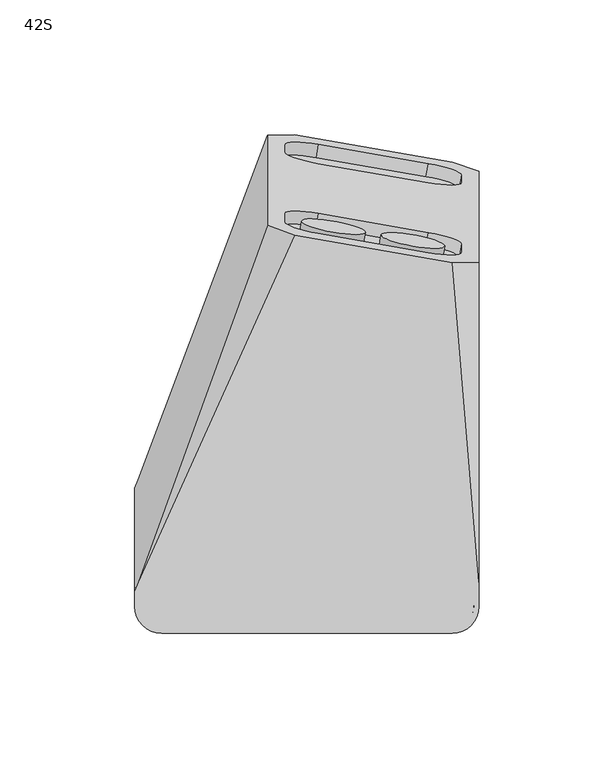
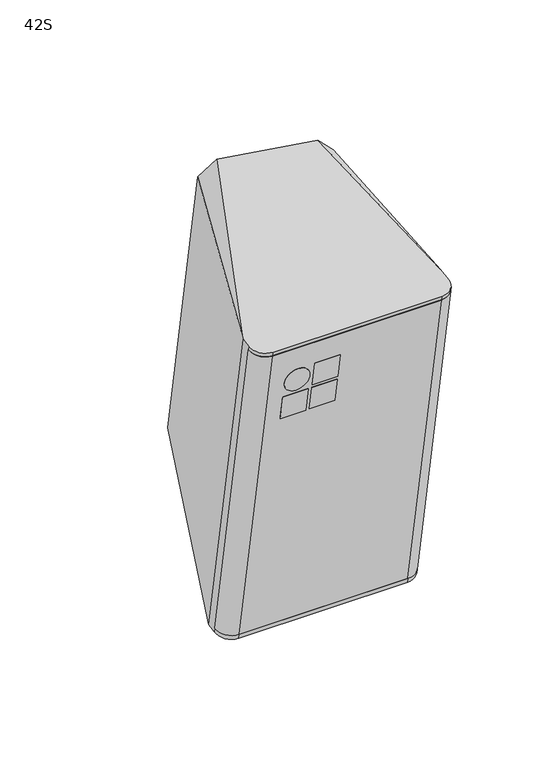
"""IFC4 building model written with IfcOpenShell, lengths in millimetres: proxy geometry, d&b xS-Series 42S Point Source : 42S."""

from ifc_helpers import new_model, si_unit, point, frame, frame_2d, origin, place, context, project, spatial, polyline, circle_curve, ellipse_curve, trimmed, segment, composite_curve, outline, extrude, source, transform, mapped, element, save
from ifc_brep_helpers import plane_surface, cylinder_surface, revolved_surface, advanced_brep


def proxy_42s_a78421c8(model_context):
    return source(origin(), model_context, "Body", "SolidModel", [
        extrude(outline(polyline([(0.0, -16.3333333), (0.0, 0.0), (5.0, 0.0), (5.0, -16.3333333), (0.0, -16.3333333)])), frame((-25.3333333, -87.6374717, 59.350243), z_axis=(0.0, -0.17364817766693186, 0.9848077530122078), x_axis=(0.0, 0.9848077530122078, 0.17364817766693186)), (0.0, 0.0, 1.0), 16.3333333),
        extrude(outline(polyline([(0.0, -16.3333333), (0.0, 0.0), (5.0, 0.0), (5.0, -16.3333333), (0.0, -16.3333333)])), frame((-25.3333333, -84.396039, 40.9671649), z_axis=(0.0, -0.17364817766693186, 0.9848077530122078), x_axis=(0.0, 0.9848077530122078, 0.17364817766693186)), (0.0, 0.0, 1.0), 16.3333333),
        extrude(outline(polyline([(0.0, -16.3333333), (0.0, 0.0), (5.0, 0.0), (5.0, -16.3333333), (0.0, -16.3333333)])), frame((-44.0, -84.396039, 40.9671649), z_axis=(0.0, -0.17364817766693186, 0.9848077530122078), x_axis=(0.0, 0.9848077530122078, 0.17364817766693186)), (0.0, 0.0, 1.0), 16.3333333),
        extrude(outline(composite_curve([segment(trimmed(circle_curve(frame_2d((-17.5, -26.8333333)), 8.1666667), [point((-25.6666666, -26.8333333))], [point((-9.3333333, -26.8333333))], False, "CARTESIAN"), True, "CONTINUOUS"), segment(trimmed(circle_curve(frame_2d((-17.5, -26.8333333)), 8.1666667), [point((-9.3333333, -26.8333333))], [point((-25.6666666, -26.8333333))], False, "CARTESIAN"), True, "CONTINUOUS")], self_intersect=False)), frame((-9.0, -92.0944415, 84.6269753), z_axis=(0.0, 0.9848077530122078, 0.17364817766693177), x_axis=(0.0, -0.17364817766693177, 0.9848077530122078)), (0.0, 0.0, 1.0), 5.0),
        extrude(outline(composite_curve([segment(polyline([(-108.0, 0.0), (0.078429, 0.0)]), True, "CONTINUOUS"), segment(trimmed(circle_curve(frame_2d((0.078429, 7.9650952)), 7.9650952), [point((0.078429, 0.0))], [point((8.0435242, 7.9650952))], True, "CARTESIAN"), True, "CONTINUOUS"), segment(polyline([(8.0435242, 7.9650952), (10.0, 7.9650952)]), True, "CONTINUOUS"), segment(trimmed(circle_curve(frame_2d((0.0, 7.9650952)), 10.0), [point((10.0, 7.9650952))], [point((0.0, -2.0349048))], False, "CARTESIAN"), True, "CONTINUOUS"), segment(polyline([(0.0, -2.0349048), (-108.0, -2.0349048)]), True, "CONTINUOUS"), segment(trimmed(circle_curve(frame_2d((-108.0, 8.0)), 10.0349048), [point((-108.0, -2.0349048))], [point((-118.0349048, 8.0))], False, "CARTESIAN"), True, "CONTINUOUS"), segment(polyline([(-118.0349048, 8.0), (-116.0, 8.0)]), True, "CONTINUOUS"), segment(trimmed(circle_curve(frame_2d((-108.0, 8.0)), 8.0), [point((-116.0, 8.0))], [point((-108.0, 0.0))], True, "CARTESIAN"), True, "CONTINUOUS")], self_intersect=False)), frame((54.0, -54.2610442, -118.2183336), z_axis=(0.0, -0.1736481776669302, 0.9848077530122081), x_axis=(1.0, 0.0, 0.0)), (0.0, 0.0, 1.0), 214.0),
        advanced_brep(
        [(64.0, -46.4169567, -116.8352093), (64.0, -83.5776667, 93.9136498), (62.0435242, -83.5776667, 93.9136498), (62.0435242, -46.4169567, -116.8352093), (54.078429, -91.4217542, 92.5305256), (54.078429, -54.2610442, -118.2183336), (-54.0, -91.4217542, 92.5305256), (-54.0, -54.2610442, -118.2183336), (-62.0, -83.5432922, 93.919711), (-62.0, -46.3825822, -116.8291481), (-64.0, -83.5432922, 93.919711), (-64.0, -46.3825822, -116.8291481), (-64.0, -84.0342569, 96.7041102), (-64.0, -78.1764427, 97.6334002), (-64.0, -40.0692368, -118.4833038), (-64.0, -45.8916174, -119.6135474), (64.0, -45.9258877, -119.6201999), (64.0, -36.7922751, -117.8471784), (64.0, 77.6892234, -85.706139), (64.0, 43.690764, 107.1087056), (64.0, -74.8795382, 98.1564247), (64.0, -84.0687357, 96.6986405), (-14.6819894, 57.5934598, 108.1583853), (-14.6819894, 91.1124956, -81.9375132), (-62.7855103, -36.7922751, -117.8471784), (-62.7855103, -74.8795382, 98.1564247), (54.1190905, 81.0907241, -94.96367), (54.1190905, 43.7208671, 116.9713211), (-4.5961827, 53.9475977, 118.5937007), (-4.5961827, 91.2555939, -92.9904603), (54.078429, -55.6670865, -121.5111664), (-54.0, -55.7098194, -121.5194618), (-54.0, -93.91221, 95.1370611), (54.078429, -93.91221, 95.1370611), (-54.0, -56.2306597, -118.5656299), (54.078429, -56.2306597, -118.5656299), (45.1738745, 80.5334444, -82.7199694), (57.4839714, 76.2252163, -70.7867936), (57.4839714, 73.4649906, -55.132776), (45.1738745, 73.4320143, -42.4457579), (4.2201563, 80.5435529, -41.1918018), (-8.0899406, 84.851781, -53.1249776), (-8.0899406, 87.6120066, -68.7789952), (4.2201563, 87.644983, -81.4660133), (45.1738745, 54.912046, 62.5862018), (57.4839714, 50.6038179, 74.5193775), (57.4839714, 47.5128803, 92.0489555), (45.1738745, 47.479904, 104.7359736), (4.2201563, 54.5914425, 105.9899297), (-8.0899406, 58.8996706, 94.0567539), (-8.0899406, 61.9906082, 76.5271759), (4.2201563, 62.0235845, 63.8401579), (44.3056336, 75.6842129, -83.5750197), (3.3519154, 82.7957514, -82.3210636), (-8.9581815, 82.7627751, -69.6340456), (-8.9581815, 80.0025494, -53.980028), (3.3519154, 75.6943213, -42.0468522), (44.3056336, 68.5827828, -43.3008083), (56.6157306, 68.6157591, -55.9878263), (56.6157306, 71.3759847, -71.6418439), (44.3056336, 50.0628144, 61.7311514), (3.3519154, 57.174353, 62.9851075), (-8.9581815, 57.1413766, 75.6721255), (-8.9581815, 54.0504391, 93.2017035), (3.3519154, 49.742211, 105.1348793), (44.3056336, 42.6306724, 103.8809232), (56.6157306, 42.6636488, 91.1939052), (56.6157306, 45.7545863, 73.6643272), (54.078429, -93.3485067, 92.1907871), (-54.0, -93.3913697, 92.1832292)],
        [
            (0, 1),
            (1, 2),
            (2, 3),
            (3, 0),
            (2, 4, circle_curve(frame((54.078429, -83.5776667, 93.9136498), z_axis=(0.0, 0.1736481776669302, -0.9848077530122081), x_axis=(1.0, 0.0, 0.0)), 7.9650952)),
            (4, 5),
            (5, 3, circle_curve(frame((54.078429, -46.4169567, -116.8352093), z_axis=(0.0, -0.1736481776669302, 0.9848077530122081), x_axis=(1.0, 0.0, 0.0)), 7.9650952)),
            (4, 6),
            (6, 7),
            (7, 5),
            (6, 8, circle_curve(frame((-54.0, -83.5432922, 93.919711), z_axis=(0.0, 0.1736481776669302, -0.9848077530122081), x_axis=(1.0, 0.0, 0.0)), 8.0)),
            (8, 9),
            (9, 7, circle_curve(frame((-54.0, -46.3825822, -116.8291481), z_axis=(0.0, -0.1736481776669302, 0.9848077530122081), x_axis=(1.0, 0.0, 0.0)), 8.0)),
            (8, 10),
            (10, 11),
            (11, 9),
            (10, 12),
            (12, 13),
            (13, 14),
            (14, 15),
            (15, 11),
            (0, 16),
            (16, 17),
            (17, 18),
            (18, 19),
            (19, 20),
            (20, 21),
            (21, 1),
            (22, 23),
            (23, 24),
            (24, 14),
            (13, 25),
            (25, 22),
            (26, 18),
            (17, 26),
            (19, 27),
            (27, 20),
            (28, 22),
            (25, 28),
            (23, 29),
            (29, 24),
            (29, 26),
            (16, 30, ellipse_curve(frame((54.078429, -45.9258877, -119.6201999), z_axis=(0.0, 0.19056323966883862, -0.9816749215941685), x_axis=(0.0, -0.9816749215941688, -0.1905632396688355)), 9.9230392, 9.921571)),
            (30, 31),
            (31, 15, ellipse_curve(frame((-54.0, -45.8916174, -119.6135474), z_axis=(0.0, 0.19056323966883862, -0.9816749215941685), x_axis=(0.0, -0.9816749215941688, -0.1905632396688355)), 10.0014799, 10.0)),
            (12, 32, ellipse_curve(frame((-54.0, -84.0342569, 96.7041102), z_axis=(0.0, -0.15668172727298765, 0.9876491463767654), x_axis=(0.0, 0.9876491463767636, 0.1566817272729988)), 10.0014799, 10.0)),
            (32, 33),
            (33, 21, ellipse_curve(frame((54.078429, -84.0687357, 96.6986405), z_axis=(0.0, -0.15668172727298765, 0.9876491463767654), x_axis=(0.0, 0.9876491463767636, 0.1566817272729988)), 9.9230392, 9.921571)),
            (27, 28),
            (11, 34, circle_curve(frame((-54.0, -46.3825822, -116.8291481), z_axis=(0.0, -0.1736481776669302, 0.9848077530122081), x_axis=(1.0, 0.0, 0.0)), 10.0)),
            (34, 35),
            (35, 0, circle_curve(frame((54.078429, -46.4169567, -116.8352093), z_axis=(0.0, -0.1736481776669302, 0.9848077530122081), x_axis=(1.0, 0.0, 0.0)), 9.921571)),
            (35, 30),
            (34, 31),
            (36, 37, circle_curve(frame((45.1738745, 78.3628422, -70.4098725), z_axis=(-0.17364817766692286, -0.9698463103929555, -0.17101007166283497), x_axis=(-0.9848077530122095, 0.17101007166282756, 0.030153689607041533)), 12.5)),
            (37, 38),
            (38, 39, circle_curve(frame((45.1738745, 75.6026165, -54.7558549), z_axis=(-0.17364817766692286, -0.9698463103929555, -0.17101007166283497), x_axis=(-0.9848077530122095, 0.17101007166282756, 0.030153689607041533)), 12.5)),
            (39, 40),
            (40, 41, circle_curve(frame((4.2201563, 82.7141551, -53.5018987), z_axis=(-0.17364817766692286, -0.9698463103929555, -0.17101007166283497), x_axis=(-0.9848077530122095, 0.17101007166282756, 0.030153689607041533)), 12.5)),
            (41, 42),
            (42, 43, circle_curve(frame((4.2201563, 85.4743807, -69.1559163), z_axis=(-0.17364817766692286, -0.9698463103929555, -0.17101007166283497), x_axis=(-0.9848077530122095, 0.17101007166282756, 0.030153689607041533)), 12.5)),
            (43, 36),
            (44, 45, circle_curve(frame((45.1738745, 52.7414438, 74.8962987), z_axis=(-0.17364817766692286, -0.9698463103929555, -0.17101007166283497), x_axis=(-0.9848077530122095, 0.17101007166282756, 0.030153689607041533)), 12.5)),
            (45, 46),
            (46, 47, circle_curve(frame((45.1738745, 49.6505062, 92.4258767), z_axis=(-0.17364817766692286, -0.9698463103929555, -0.17101007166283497), x_axis=(-0.9848077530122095, 0.17101007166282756, 0.030153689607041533)), 12.5)),
            (47, 48),
            (48, 49, circle_curve(frame((4.2201563, 56.7620447, 93.6798328), z_axis=(-0.17364817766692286, -0.9698463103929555, -0.17101007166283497), x_axis=(-0.9848077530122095, 0.17101007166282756, 0.030153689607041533)), 12.5)),
            (49, 50),
            (50, 51, circle_curve(frame((4.2201563, 59.8529823, 76.1502548), z_axis=(-0.17364817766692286, -0.9698463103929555, -0.17101007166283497), x_axis=(-0.9848077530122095, 0.17101007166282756, 0.030153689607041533)), 12.5)),
            (51, 44),
            (52, 53),
            (53, 54, circle_curve(frame((3.3519154, 80.6251492, -70.0109667), z_axis=(0.17364817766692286, 0.9698463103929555, 0.17101007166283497), x_axis=(-0.9848077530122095, 0.17101007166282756, 0.030153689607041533)), 12.5)),
            (54, 55),
            (55, 56, circle_curve(frame((3.3519154, 77.8649235, -54.3569491), z_axis=(0.17364817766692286, 0.9698463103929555, 0.17101007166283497), x_axis=(-0.9848077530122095, 0.17101007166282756, 0.030153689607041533)), 12.5)),
            (56, 57),
            (57, 58, circle_curve(frame((44.3056336, 70.753385, -55.6109052), z_axis=(0.17364817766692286, 0.9698463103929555, 0.17101007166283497), x_axis=(-0.9848077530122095, 0.17101007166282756, 0.030153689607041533)), 12.5)),
            (58, 59),
            (59, 52, circle_curve(frame((44.3056336, 73.5136106, -71.2649228), z_axis=(0.17364817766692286, 0.9698463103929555, 0.17101007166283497), x_axis=(-0.9848077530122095, 0.17101007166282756, 0.030153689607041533)), 12.5)),
            (60, 61),
            (61, 62, circle_curve(frame((3.3519154, 55.0037507, 75.2952044), z_axis=(0.17364817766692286, 0.9698463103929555, 0.17101007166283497), x_axis=(-0.9848077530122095, 0.17101007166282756, 0.030153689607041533)), 12.5)),
            (62, 63),
            (63, 64, circle_curve(frame((3.3519154, 51.9128132, 92.8247824), z_axis=(0.17364817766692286, 0.9698463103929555, 0.17101007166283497), x_axis=(-0.9848077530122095, 0.17101007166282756, 0.030153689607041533)), 12.5)),
            (64, 65),
            (65, 66, circle_curve(frame((44.3056336, 44.8012746, 91.5708263), z_axis=(0.17364817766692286, 0.9698463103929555, 0.17101007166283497), x_axis=(-0.9848077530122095, 0.17101007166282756, 0.030153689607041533)), 12.5)),
            (66, 67),
            (67, 60, circle_curve(frame((44.3056336, 47.8922122, 74.0412483), z_axis=(0.17364817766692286, 0.9698463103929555, 0.17101007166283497), x_axis=(-0.9848077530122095, 0.17101007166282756, 0.030153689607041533)), 12.5)),
            (1, 68, circle_curve(frame((54.078429, -83.5776667, 93.9136498), z_axis=(0.0, 0.1736481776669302, -0.9848077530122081), x_axis=(1.0, 0.0, 0.0)), 9.921571)),
            (68, 69),
            (69, 10, circle_curve(frame((-54.0, -83.5432922, 93.919711), z_axis=(0.0, 0.1736481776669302, -0.9848077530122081), x_axis=(1.0, 0.0, 0.0)), 10.0)),
            (33, 68),
            (32, 69),
            (59, 37),
            (36, 52),
            (58, 38),
            (57, 39),
            (56, 40),
            (55, 41),
            (54, 42),
            (53, 43),
            (67, 45),
            (44, 60),
            (66, 46),
            (65, 47),
            (64, 48),
            (63, 49),
            (62, 50),
            (61, 51),
        ],
        [
            plane_surface(frame((64.0, -46.4169567, -116.8352093), z_axis=(0.0, -0.9848077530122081, -0.1736481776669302), x_axis=(0.0, -0.1736481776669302, 0.9848077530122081))),
            cylinder_surface(frame((54.078429, -83.5776667, 93.9136498), z_axis=(0.0, 0.1736481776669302, -0.9848077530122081), x_axis=(1.0, 0.0, 0.0)), 7.9650952),
            plane_surface(frame((54.078429, -54.2610442, -118.2183336), z_axis=(0.0, -0.9848077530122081, -0.1736481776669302), x_axis=(0.0, -0.1736481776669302, 0.9848077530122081))),
            cylinder_surface(frame((-54.0, -83.5432922, 93.919711), z_axis=(0.0, 0.1736481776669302, -0.9848077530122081), x_axis=(1.0, 0.0, 0.0)), 8.0),
            plane_surface(frame((-62.0, -46.3825822, -116.8291481), z_axis=(0.0, -0.9848077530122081, -0.1736481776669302), x_axis=(0.0, -0.1736481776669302, 0.9848077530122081))),
            plane_surface(frame((-64.0, -46.3825822, -116.8291481), z_axis=(-1.0, 0.0, 0.0), x_axis=(0.0, -0.1736481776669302, 0.9848077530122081))),
            plane_surface(frame((64.0, -40.5424847, -115.7993814), z_axis=(1.0, 0.0, 0.0), x_axis=(0.0, -0.1736481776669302, 0.9848077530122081))),
            plane_surface(frame((-14.5000481, 74.8453892, 13.1972615), z_axis=(-0.9397208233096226, 0.3367477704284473, 0.059377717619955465), x_axis=(0.0, 0.1736481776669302, -0.9848077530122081))),
            plane_surface(frame((57.232233, 92.7714784, -88.466642), z_axis=(0.7053631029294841, 0.19160270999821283, -0.6824597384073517), x_axis=(0.7071067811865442, -0.12278780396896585, 0.6963642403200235))),
            plane_surface(frame((57.232233, 56.9193001, 114.861165), z_axis=(0.7053631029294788, -0.053367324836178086, 0.7068343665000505), x_axis=(-0.7071067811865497, -0.12278780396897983, 0.6963642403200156))),
            plane_surface(frame((-7.7322812, 56.9193001, 114.861165), z_axis=(-0.6719558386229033, 0.18995477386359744, 0.715815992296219), x_axis=(-0.7071067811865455, 0.12278780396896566, -0.6963642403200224))),
            plane_surface(frame((-7.7322812, 92.7714784, -88.466642), z_axis=(-0.6719558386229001, 0.42332258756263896, -0.6076786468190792), x_axis=(0.7071067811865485, 0.12278780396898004, -0.6963642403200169))),
            plane_surface(frame((-100.0, -76.6601576, -125.5863522), z_axis=(0.0, 0.19056323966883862, -0.9816749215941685), x_axis=(1.0, 0.0, 0.0))),
            plane_surface(frame((-100.0, 64.0896446, 120.2026459), z_axis=(0.0, -0.15668172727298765, 0.9876491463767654), x_axis=(1.0, 0.0, 0.0))),
            plane_surface(frame((64.0, -46.4169567, -116.8352093), z_axis=(0.0, -0.1736481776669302, 0.9848077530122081), x_axis=(0.0, 0.9848077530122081, 0.1736481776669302))),
            cylinder_surface(frame((54.078429, -46.4169567, -116.8352093), z_axis=(0.0, 0.1736481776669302, -0.9848077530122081), x_axis=(1.0, 0.0, 0.0)), 9.921571),
            plane_surface(frame((54.078429, -55.2508257, -124.1225444), z_axis=(0.0, -0.9848077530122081, -0.1736481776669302), x_axis=(0.0, -0.1736481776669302, 0.9848077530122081))),
            cylinder_surface(frame((-54.0, -46.3825822, -116.8291481), z_axis=(0.0, 0.1736481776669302, -0.9848077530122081), x_axis=(1.0, 0.0, 0.0)), 10.0),
            plane_surface(frame((81.2585403, 101.105124, -236.0290917), z_axis=(0.17364817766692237, 0.9698463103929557, 0.171010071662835), x_axis=(0.0, -0.1736481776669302, 0.9848077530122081))),
            plane_surface(frame((31.9955367, 75.6512365, -70.8880017), z_axis=(0.1736481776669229, 0.9698463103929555, 0.171010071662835), x_axis=(0.0, 0.1736481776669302, -0.9848077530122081))),
            plane_surface(frame((64.0, -83.5776667, 93.9136498), z_axis=(0.0, 0.1736481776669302, -0.9848077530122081), x_axis=(0.0, -0.9848077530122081, -0.1736481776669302))),
            cylinder_surface(frame((54.078429, -84.6195558, 99.8224964), z_axis=(0.0, 0.1736481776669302, -0.9848077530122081), x_axis=(1.0, 0.0, 0.0)), 9.921571),
            plane_surface(frame((54.078429, -93.3913697, 92.1832292), z_axis=(0.0, -0.9848077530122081, -0.1736481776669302), x_axis=(0.0, -0.1736481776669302, 0.9848077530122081))),
            cylinder_surface(frame((-54.0, -84.5851812, 99.8285575), z_axis=(0.0, 0.1736481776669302, -0.9848077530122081), x_axis=(1.0, 0.0, 0.0)), 10.0),
            revolved_surface(polyline([(31.995536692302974, 75.65123650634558, -70.88800174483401), (32.86377758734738, 80.50046809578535, -70.03295137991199)]), (45.1738745, 78.3628422, -70.4098725), (-0.17364817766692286, -0.9698463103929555, -0.17101007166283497)),
            plane_surface(frame((56.6157306, 71.3759847, -71.6418439), z_axis=(-0.9848077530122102, 0.17101007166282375, 0.030153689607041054), x_axis=(0.17364817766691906, 0.9698463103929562, 0.17101007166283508))),
            revolved_surface(polyline([(31.99553670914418, 72.89101090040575, -55.233984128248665), (32.86377759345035, 77.7402424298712, -54.37893377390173)]), (45.1738745, 75.6026165, -54.7558549), (-0.17364817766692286, -0.9698463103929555, -0.17101007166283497)),
            plane_surface(frame((44.3056336, 68.5827828, -43.3008083), z_axis=(0.0, 0.1736481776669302, -0.9848077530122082), x_axis=(0.17364817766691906, 0.9698463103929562, 0.17101007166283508))),
            revolved_surface(polyline([(-8.958181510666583, 80.00254938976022, -53.98002794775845), (-8.089940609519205, 84.85178101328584, -53.12497757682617)]), (4.2201563, 82.7141551, -53.5018987), (-0.17364817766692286, -0.9698463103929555, -0.17101007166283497)),
            plane_surface(frame((-8.9581815, 80.0025494, -53.980028), z_axis=(0.98480775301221, -0.17101007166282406, -0.030153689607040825), x_axis=(0.17364817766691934, 0.969846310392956, 0.17101007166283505))),
            revolved_surface(polyline([(-8.958181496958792, 82.7627750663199, -69.63404553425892), (-8.089940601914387, 87.61200665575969, -68.7789951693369)]), (4.2201563, 85.4743807, -69.1559163), (-0.17364817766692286, -0.9698463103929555, -0.17101007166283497)),
            plane_surface(frame((3.3519154, 82.7957514, -82.3210636), z_axis=(0.0, -0.1736481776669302, 0.9848077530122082), x_axis=(0.17364817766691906, 0.9698463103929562, 0.17101007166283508))),
            revolved_surface(polyline([(31.9955366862, 50.02983807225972, 74.41816944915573), (32.86377758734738, 54.87906969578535, 75.27321982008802)]), (45.1738745, 52.7414438, 74.8962987), (-0.17364817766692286, -0.9698463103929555, -0.17101007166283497)),
            plane_surface(frame((56.6157306, 45.7545863, 73.6643272), z_axis=(-0.9848077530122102, 0.17101007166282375, 0.030153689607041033), x_axis=(0.17364817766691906, 0.9698463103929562, 0.17101007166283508))),
            revolved_surface(polyline([(31.995536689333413, 46.93890048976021, 91.94774745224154), (32.863777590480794, 51.78813211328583, 92.80279782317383)]), (45.1738745, 49.6505062, 92.4258767), (-0.17364817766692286, -0.9698463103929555, -0.17101007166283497)),
            plane_surface(frame((44.3056336, 42.6306724, 103.8809232), z_axis=(0.0, 0.1736481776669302, -0.9848077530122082), x_axis=(0.17364817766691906, 0.9698463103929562, 0.17101007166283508))),
            revolved_surface(polyline([(-8.958181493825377, 54.0504390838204, 93.20170356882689), (-8.089940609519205, 58.89967061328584, 94.05675392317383)]), (4.2201563, 56.7620447, 93.6798328), (-0.17364817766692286, -0.9698463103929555, -0.17101007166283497)),
            plane_surface(frame((-8.9581815, 54.0504391, 93.2017035), z_axis=(0.9848077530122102, -0.17101007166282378, -0.030153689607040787), x_axis=(0.17364817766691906, 0.9698463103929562, 0.17101007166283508))),
            revolved_surface(polyline([(-8.958181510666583, 57.14137658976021, 75.67212555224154), (-8.089940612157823, 61.990608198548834, 76.52717592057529)]), (4.2201563, 59.8529823, 76.1502548), (-0.17364817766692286, -0.9698463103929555, -0.17101007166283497)),
            plane_surface(frame((3.3519154, 57.174353, 62.9851075), z_axis=(0.0, -0.1736481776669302, 0.9848077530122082), x_axis=(0.17364817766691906, 0.9698463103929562, 0.17101007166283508))),
        ],
        [
            (0, [[1, 2, 3, 4]]),
            (1, [[-3, 5, 6, 7]]),
            (2, [[-6, 8, 9, 10]]),
            (3, [[-9, 11, 12, 13]]),
            (4, [[-12, 14, 15, 16]]),
            (5, [[-15, 17, 18, 19, 20, 21]]),
            (6, [[-1, 22, 23, 24, 25, 26, 27, 28]]),
            (7, [[29, 30, 31, -19, 32, 33]]),
            (8, [[34, -24, 35]]),
            (9, [[-26, 36, 37]]),
            (10, [[38, -33, 39]]),
            (11, [[-30, 40, 41]]),
            (12, [[-20, -31, -41, 42, -35, -23, 43, 44, 45]]),
            (13, [[-18, 46, 47, 48, -27, -37, 49, -39, -32]]),
            (14, [[50, 51, 52, -4, -7, -10, -13, -16]]),
            (15, [[-52, 53, -43, -22]]),
            (16, [[-51, 54, -44, -53]]),
            (17, [[-50, -21, -45, -54]]),
            (18, [[-25, -34, -42, -40, -29, -38, -49, -36], [55, 56, 57, 58, 59, 60, 61, 62], [63, 64, 65, 66, 67, 68, 69, 70]]),
            (19, [[71, 72, 73, 74, 75, 76, 77, 78]]),
            (19, [[79, 80, 81, 82, 83, 84, 85, 86]]),
            (20, [[87, 88, 89, -14, -11, -8, -5, -2]]),
            (21, [[-87, -28, -48, 90]]),
            (22, [[-88, -90, -47, 91]]),
            (23, [[-89, -91, -46, -17]]),
            (24, [[-78, 92, -55, 93]]),
            (25, [[-77, 94, -56, -92]]),
            (26, [[-76, 95, -57, -94]]),
            (27, [[-75, 96, -58, -95]]),
            (28, [[-74, 97, -59, -96]]),
            (29, [[-73, 98, -60, -97]]),
            (30, [[-72, 99, -61, -98]]),
            (31, [[-71, -93, -62, -99]]),
            (32, [[-86, 100, -63, 101]]),
            (33, [[-85, 102, -64, -100]]),
            (34, [[-84, 103, -65, -102]]),
            (35, [[-83, 104, -66, -103]]),
            (36, [[-82, 105, -67, -104]]),
            (37, [[-81, 106, -68, -105]]),
            (38, [[-80, 107, -69, -106]]),
            (39, [[-79, -101, -70, -107]]),
        ],
    ),
        extrude(outline(composite_curve([segment(trimmed(circle_curve(frame_2d((0.0, -12.0)), 12.0), [point((1e-07, -24.0))], [point((0.0, 0.0))], False, "CARTESIAN"), True, "CONTINUOUS"), segment(trimmed(circle_curve(frame_2d((0.0, -12.0)), 12.0), [point((0.0, 0.0))], [point((1e-07, -24.0))], False, "CARTESIAN"), True, "CONTINUOUS")], self_intersect=False)), frame((50.3782035, 45.0583246, 83.9467745), z_axis=(0.17364817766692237, 0.9698463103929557, 0.171010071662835), x_axis=(0.0, -0.1736481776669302, 0.9848077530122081)), (0.0, 0.0, 1.0), 5.0),
        extrude(outline(composite_curve([segment(trimmed(circle_curve(frame_2d((0.0, -42.0)), 12.0), [point((1e-07, -54.0))], [point((0.0, -30.0))], False, "CARTESIAN"), True, "CONTINUOUS"), segment(trimmed(circle_curve(frame_2d((0.0, -42.0)), 12.0), [point((0.0, -30.0))], [point((1e-07, -54.0))], False, "CARTESIAN"), True, "CONTINUOUS")], self_intersect=False)), frame((50.3782035, 45.0583246, 83.9467745), z_axis=(0.17364817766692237, 0.9698463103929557, 0.171010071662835), x_axis=(0.0, -0.1736481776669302, 0.9848077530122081)), (0.0, 0.0, 1.0), 5.0),
    ])


if __name__ == "__main__":
    model = new_model("IFC4")
    model_context = context("Model", 3, world=origin())
    ifc_project = project(units=[si_unit("LENGTHUNIT", "METRE", prefix="MILLI")], contexts=[model_context])
    site = spatial("IfcSite", under=ifc_project)
    building = spatial("IfcBuilding", under=site)
    placement = place(None, origin())
    proxy_42s_shape = proxy_42s_a78421c8(model_context)
    element("IfcBuildingElementProxy", 1, Name="d&b xS-Series 42S Point Source : 42S", ObjectType="d&b xS-Series 42S Point Source : 42S", at=placement, inside=building, context=model_context, shape_type="MappedRepresentation", body=[
        mapped(proxy_42s_shape, transform((0.0, 0.0, 0.0), x_axis=(1.0, 0.0, 0.0), y_axis=(0.0, 1.0, 0.0), z_axis=(0.0, 0.0, 1.0))),
    ])
    save(model, "model.ifc")
